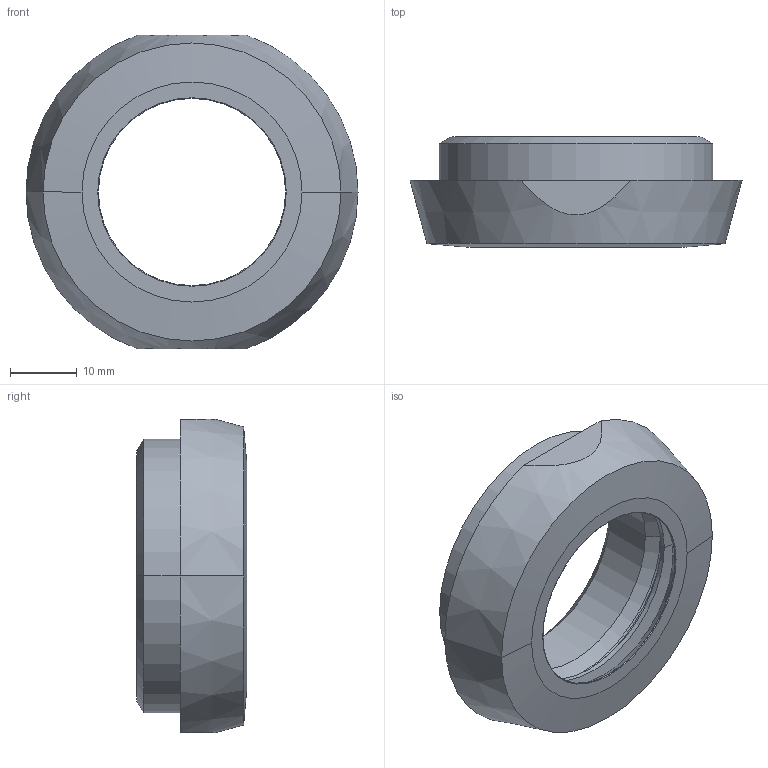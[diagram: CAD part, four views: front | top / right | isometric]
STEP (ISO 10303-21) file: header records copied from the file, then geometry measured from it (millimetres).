
FILE_DESCRIPTION( ( '' ), '1' );
FILE_NAME( '//expscmdclustefs.cadenas.external/client_exchange/iodir/jobs/output/wkb55038753_no0/STEP/E33711_204.stp', '2013-03-01T10:48:21', ( '' ), ( '' ), ' ', ' ', ' ' );
FILE_SCHEMA( ( 'CONFIG_CONTROL_DESIGN' ) );
Length unit declared in the file: millimetre
Products named in the file (1): 1
Bounding box: 49.8 x 16.5 x 47 mm (x, y, z)
Volume: 12690.6 mm3; surface area: 6771.9 mm2
Topology: 1 solids, 1 shells, 43 faces, 102 edges, 64 vertices
Faces by surface type: cone 16, torus 12, cylinder 8, plane 7
Entity records: 1320 total; most frequent: DIRECTION 262, CARTESIAN_POINT 214, ORIENTED_EDGE 204, AXIS2_PLACEMENT_3D 118, EDGE_CURVE 102, CIRCLE 74, VERTEX_POINT 64, EDGE_LOOP 48
